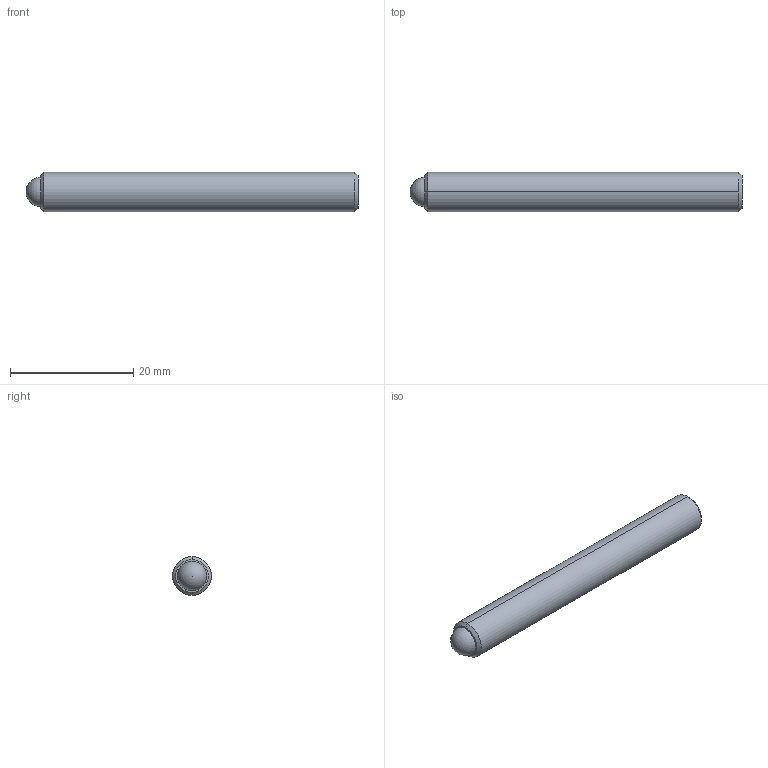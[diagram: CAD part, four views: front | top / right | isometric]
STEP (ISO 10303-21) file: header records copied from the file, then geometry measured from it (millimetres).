
FILE_DESCRIPTION (( 'STEP AP214' ), '1' );
FILE_NAME ('TS250-100-2125-AA.STEP', '2013-02-13T14:12:59', ( 'workpc' ), ( 'Microsoft' ), 'SwSTEP 2.0', 'SolidWorks 2013', '' );
FILE_SCHEMA (( 'AUTOMOTIVE_DESIGN' ));
Length unit declared in the file: inch
Products named in the file (1): TS250-100-2125-AA
Bounding box: 53.98 x 6.35 x 6.35 mm (x, y, z)
Volume: 1642.5 mm3; surface area: 1196.7 mm2
Topology: 2 solids, 2 shells, 20 faces, 45 edges, 29 vertices
Faces by surface type: plane 10, cylinder 4, cone 4, sphere 2
Entity records: 599 total; most frequent: DIRECTION 96, CARTESIAN_POINT 87, ORIENTED_EDGE 80, EDGE_CURVE 40, AXIS2_PLACEMENT_3D 35, VECTOR 26, LINE 26, VERTEX_POINT 26
